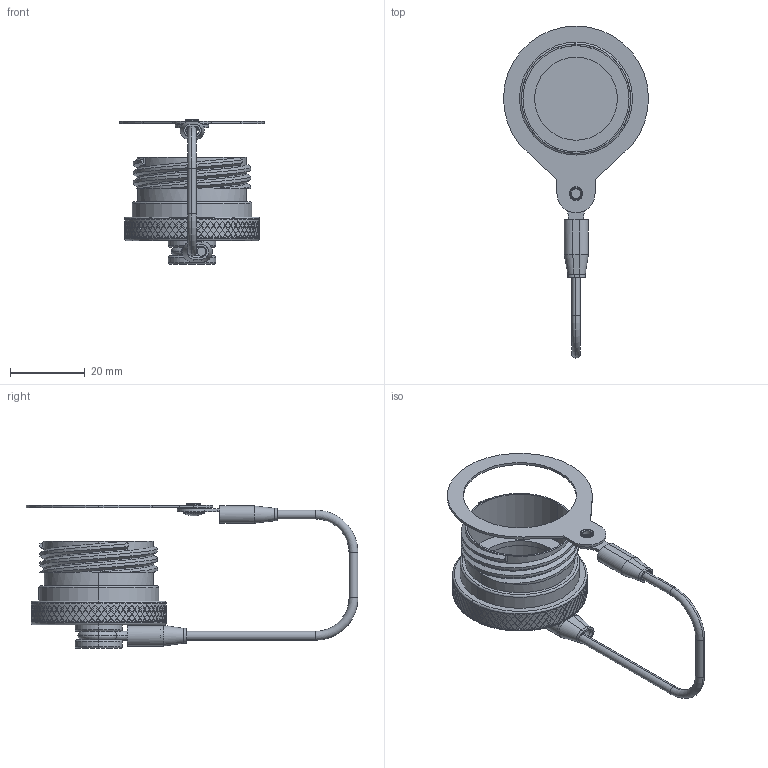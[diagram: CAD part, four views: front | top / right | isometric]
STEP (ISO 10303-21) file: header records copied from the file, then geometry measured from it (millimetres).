
FILE_DESCRIPTION (( 'STEP AP214' ), '1' );
FILE_NAME ('Q38DC-PRX-19-R0.STEP', '2026-04-22T18:40:13', ( '' ), ( '' ), 'SwSTEP 2.0', 'SolidWorks 2024', '' );
FILE_SCHEMA (( 'AUTOMOTIVE_DESIGN' ));
Length unit declared in the file: inch
Products named in the file (11): Q38-XX29-P_19P; SW-XRXX_SW-SR19; SW-347; Q38-XX28-X_Q38-1928; LN-06-07-13_Q38DC-PRX-19 (Assembled); SW-349_SW-349; Q38DC-PRX-19-R0; Lanyard Assembly Q38_Q38DC-PRX-19 (Assembled); HEAT SHRINK_HS-250X625_SW-348; SW-348; HEAT SHRINK_HS-125-625S
Assembly tree (10 placements, depth 3):
  Q38DC-PRX-19-R0
    Q38-XX28-X_Q38-1928
    Lanyard Assembly Q38_Q38DC-PRX-19 (Assembled)
      LN-06-07-13_Q38DC-PRX-19 (Assembled)
      SW-348
      HEAT SHRINK_HS-250X625_SW-348
      SW-347
      HEAT SHRINK_HS-125-625S
      SW-349_SW-349
      SW-XRXX_SW-SR19
    Q38-XX29-P_19P
Bounding box: 38.9 x 88.99 x 38.81 mm (x, y, z)
Volume: 9928.3 mm3; surface area: 12077 mm2
Topology: 9 solids, 9 shells, 1880 faces, 4507 edges, 2976 vertices
Faces by surface type: plane 1407, cylinder 422, torus 32, bspline 17, sphere 2
Entity records: 56346 total; most frequent: CARTESIAN_POINT 18948, ORIENTED_EDGE 9014, DIRECTION 6301, EDGE_CURVE 4507, VERTEX_POINT 2976, AXIS2_PLACEMENT_3D 2366, EDGE_LOOP 2225, FACE_OUTER_BOUND 1880
